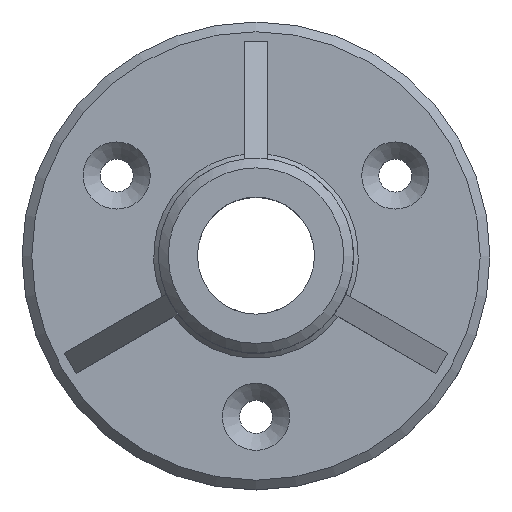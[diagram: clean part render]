
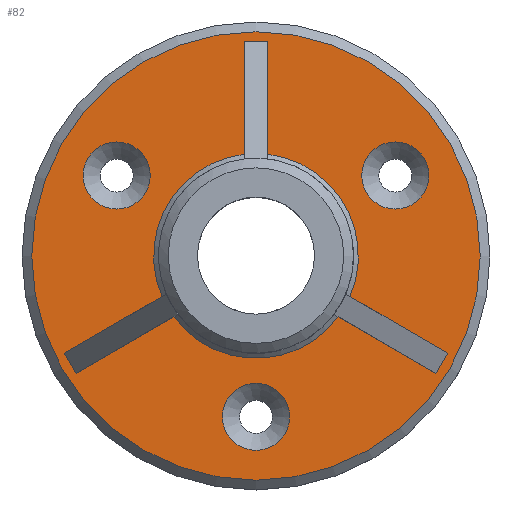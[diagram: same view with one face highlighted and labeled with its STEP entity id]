
A CAD part, top view. The second image highlights one B-rep face of the part: STEP entity #82.
In plain terms, the highlighted planar face has unit normal (0, 0, 1).
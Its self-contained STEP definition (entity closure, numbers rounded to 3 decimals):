
#68=PLANE('',#628);
#82=ADVANCED_FACE('',(#206,#207,#208,#209,#210),#68,.T.);
#134=LINE('',#945,#157);
#135=LINE('',#950,#158);
#136=LINE('',#952,#159);
#137=LINE('',#954,#160);
#138=LINE('',#958,#161);
#139=LINE('',#960,#162);
#140=LINE('',#962,#163);
#141=LINE('',#966,#164);
#142=LINE('',#968,#165);
#157=VECTOR('',#709,1.);
#158=VECTOR('',#712,1.);
#159=VECTOR('',#713,1.);
#160=VECTOR('',#714,1.);
#161=VECTOR('',#717,1.);
#162=VECTOR('',#718,1.);
#163=VECTOR('',#719,1.);
#164=VECTOR('',#722,1.);
#165=VECTOR('',#723,1.);
#178=CIRCLE('',#621,4.59);
#179=CIRCLE('',#622,4.59);
#180=CIRCLE('',#623,4.59);
#181=CIRCLE('',#624,14.);
#182=CIRCLE('',#625,14.);
#183=CIRCLE('',#626,14.);
#184=CIRCLE('',#627,30.667);
#206=FACE_BOUND('',#248,.T.);
#207=FACE_BOUND('',#249,.T.);
#208=FACE_BOUND('',#250,.T.);
#209=FACE_BOUND('',#251,.T.);
#210=FACE_BOUND('',#252,.T.);
#248=EDGE_LOOP('',(#322));
#249=EDGE_LOOP('',(#323));
#250=EDGE_LOOP('',(#324));
#251=EDGE_LOOP('',(#325,#326,#327,#328,#329,#330,#331,#332,#333,#334,#335,
#336));
#252=EDGE_LOOP('',(#337));
#322=ORIENTED_EDGE('',*,*,#531,.T.);
#323=ORIENTED_EDGE('',*,*,#532,.T.);
#324=ORIENTED_EDGE('',*,*,#533,.T.);
#325=ORIENTED_EDGE('',*,*,#534,.F.);
#326=ORIENTED_EDGE('',*,*,#535,.T.);
#327=ORIENTED_EDGE('',*,*,#536,.T.);
#328=ORIENTED_EDGE('',*,*,#537,.F.);
#329=ORIENTED_EDGE('',*,*,#538,.F.);
#330=ORIENTED_EDGE('',*,*,#539,.T.);
#331=ORIENTED_EDGE('',*,*,#540,.T.);
#332=ORIENTED_EDGE('',*,*,#541,.F.);
#333=ORIENTED_EDGE('',*,*,#542,.F.);
#334=ORIENTED_EDGE('',*,*,#543,.T.);
#335=ORIENTED_EDGE('',*,*,#544,.T.);
#336=ORIENTED_EDGE('',*,*,#545,.T.);
#337=ORIENTED_EDGE('',*,*,#546,.T.);
#474=VERTEX_POINT('',#940);
#475=VERTEX_POINT('',#942);
#476=VERTEX_POINT('',#944);
#477=VERTEX_POINT('',#946);
#478=VERTEX_POINT('',#947);
#479=VERTEX_POINT('',#949);
#480=VERTEX_POINT('',#951);
#481=VERTEX_POINT('',#953);
#482=VERTEX_POINT('',#955);
#483=VERTEX_POINT('',#957);
#484=VERTEX_POINT('',#959);
#485=VERTEX_POINT('',#961);
#486=VERTEX_POINT('',#963);
#487=VERTEX_POINT('',#965);
#488=VERTEX_POINT('',#967);
#489=VERTEX_POINT('',#970);
#531=EDGE_CURVE('',#474,#474,#178,.T.);
#532=EDGE_CURVE('',#475,#475,#179,.T.);
#533=EDGE_CURVE('',#476,#476,#180,.T.);
#534=EDGE_CURVE('',#477,#478,#134,.T.);
#535=EDGE_CURVE('',#477,#479,#181,.T.);
#536=EDGE_CURVE('',#479,#480,#135,.T.);
#537=EDGE_CURVE('',#481,#480,#136,.T.);
#538=EDGE_CURVE('',#482,#481,#137,.T.);
#539=EDGE_CURVE('',#482,#483,#182,.T.);
#540=EDGE_CURVE('',#483,#484,#138,.T.);
#541=EDGE_CURVE('',#485,#484,#139,.T.);
#542=EDGE_CURVE('',#486,#485,#140,.T.);
#543=EDGE_CURVE('',#486,#487,#183,.T.);
#544=EDGE_CURVE('',#487,#488,#141,.T.);
#545=EDGE_CURVE('',#488,#478,#142,.T.);
#546=EDGE_CURVE('',#489,#489,#184,.T.);
#621=AXIS2_PLACEMENT_3D('',#939,#703,#704);
#622=AXIS2_PLACEMENT_3D('',#941,#705,#706);
#623=AXIS2_PLACEMENT_3D('',#943,#707,#708);
#624=AXIS2_PLACEMENT_3D('',#948,#710,#711);
#625=AXIS2_PLACEMENT_3D('',#956,#715,#716);
#626=AXIS2_PLACEMENT_3D('',#964,#720,#721);
#627=AXIS2_PLACEMENT_3D('',#969,#724,#725);
#628=AXIS2_PLACEMENT_3D('',#971,#726,#727);
#703=DIRECTION('',(0.,0.,-1.));
#704=DIRECTION('',(-1.,0.,0.));
#705=DIRECTION('',(0.,0.,-1.));
#706=DIRECTION('',(-1.,0.,0.));
#707=DIRECTION('',(0.,0.,-1.));
#708=DIRECTION('',(-1.,0.,0.));
#709=DIRECTION('',(0.,1.,0.));
#710=DIRECTION('',(0.,0.,-1.));
#711=DIRECTION('',(1.,0.,0.));
#712=DIRECTION('',(0.866,-0.5,0.));
#713=DIRECTION('',(0.5,0.866,0.));
#714=DIRECTION('',(0.866,-0.5,0.));
#715=DIRECTION('',(0.,0.,-1.));
#716=DIRECTION('',(1.,0.,0.));
#717=DIRECTION('',(-0.866,-0.5,0.));
#718=DIRECTION('',(0.5,-0.866,0.));
#719=DIRECTION('',(-0.866,-0.5,0.));
#720=DIRECTION('',(0.,0.,-1.));
#721=DIRECTION('',(1.,0.,0.));
#722=DIRECTION('',(0.,1.,0.));
#723=DIRECTION('',(1.,0.,0.));
#724=DIRECTION('',(0.,0.,1.));
#725=DIRECTION('',(1.,0.,0.));
#726=DIRECTION('',(0.,0.,1.));
#727=DIRECTION('',(1.,0.,0.));
#939=CARTESIAN_POINT('',(0.,-22.,5.333));
#940=CARTESIAN_POINT('',(-4.59,-22.,5.333));
#941=CARTESIAN_POINT('',(19.053,11.,5.333));
#942=CARTESIAN_POINT('',(14.463,11.,5.333));
#943=CARTESIAN_POINT('',(-19.053,11.,5.333));
#944=CARTESIAN_POINT('',(-23.643,11.,5.333));
#945=CARTESIAN_POINT('',(1.6,10.667,5.333));
#946=CARTESIAN_POINT('',(1.6,13.908,5.333));
#947=CARTESIAN_POINT('',(1.6,29.333,5.333));
#948=CARTESIAN_POINT('',(0.,0.,5.333));
#949=CARTESIAN_POINT('',(12.845,-5.568,5.333));
#950=CARTESIAN_POINT('',(10.038,-3.948,5.333));
#951=CARTESIAN_POINT('',(26.203,-13.281,5.333));
#952=CARTESIAN_POINT('',(24.603,-16.052,5.333));
#953=CARTESIAN_POINT('',(24.603,-16.052,5.333));
#954=CARTESIAN_POINT('',(8.438,-6.719,5.333));
#955=CARTESIAN_POINT('',(11.245,-8.34,5.333));
#956=CARTESIAN_POINT('',(0.,0.,5.333));
#957=CARTESIAN_POINT('',(-11.245,-8.34,5.333));
#958=CARTESIAN_POINT('',(-8.438,-6.719,5.333));
#959=CARTESIAN_POINT('',(-24.603,-16.052,5.333));
#960=CARTESIAN_POINT('',(-26.203,-13.281,5.333));
#961=CARTESIAN_POINT('',(-26.203,-13.281,5.333));
#962=CARTESIAN_POINT('',(-10.038,-3.948,5.333));
#963=CARTESIAN_POINT('',(-12.845,-5.568,5.333));
#964=CARTESIAN_POINT('',(0.,0.,5.333));
#965=CARTESIAN_POINT('',(-1.6,13.908,5.333));
#966=CARTESIAN_POINT('',(-1.6,10.667,5.333));
#967=CARTESIAN_POINT('',(-1.6,29.333,5.333));
#968=CARTESIAN_POINT('',(1.6,29.333,5.333));
#969=CARTESIAN_POINT('',(0.,0.,5.333));
#970=CARTESIAN_POINT('',(30.667,0.,5.333));
#971=CARTESIAN_POINT('',(32.,0.,5.333));
